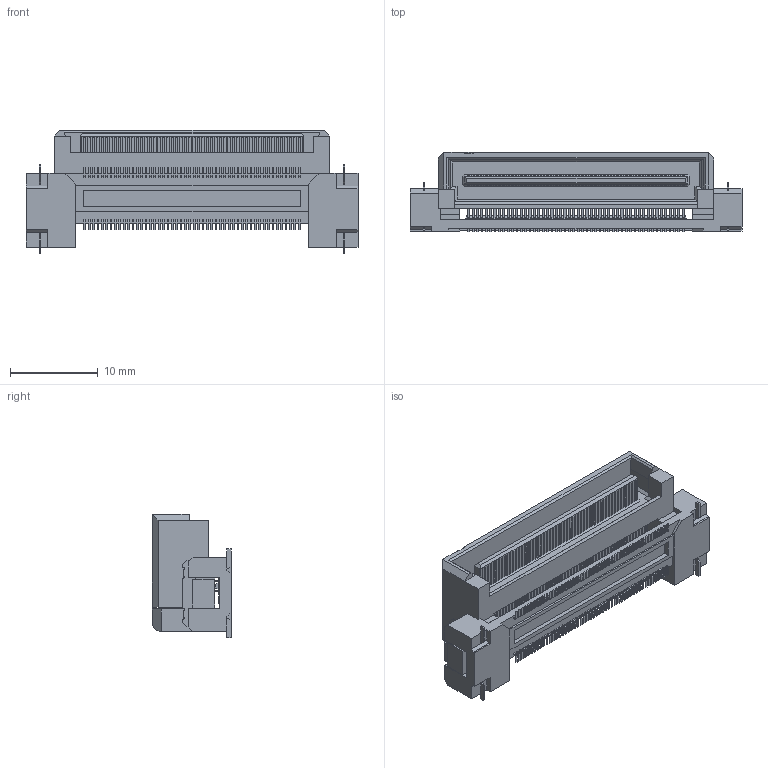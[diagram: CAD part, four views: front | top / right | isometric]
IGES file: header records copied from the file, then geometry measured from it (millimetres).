
Start section: Elysium IGES Interface
Global section: file name: 70HC:\Users\1314\Desktop\temp\回覧用-一時的\DTXX\100\P3D045_DT00-100L.igs; native system: Creo Elements/Direct Modeling 19.0F  14-Feb-2017; preprocessor: Creo Element/Direct IGES_3D V2.2; author: Unknown; organization: Unknown; date: 20170718.112921; units: millimetre
Bounding box: 37.92 x 9.05 x 14.09 mm (x, y, z)
Volume: 1358.3 mm3; surface area: 3354.5 mm2
Topology: 1 solids, 1 shells, 4710 faces, 13128 edges, 8572 vertices
Faces by surface type: bspline 4710
